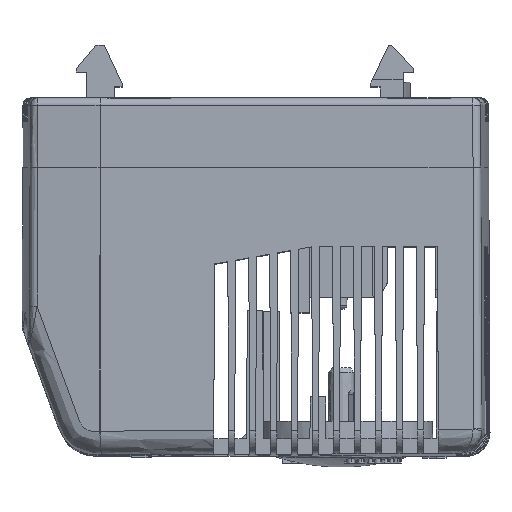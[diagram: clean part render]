
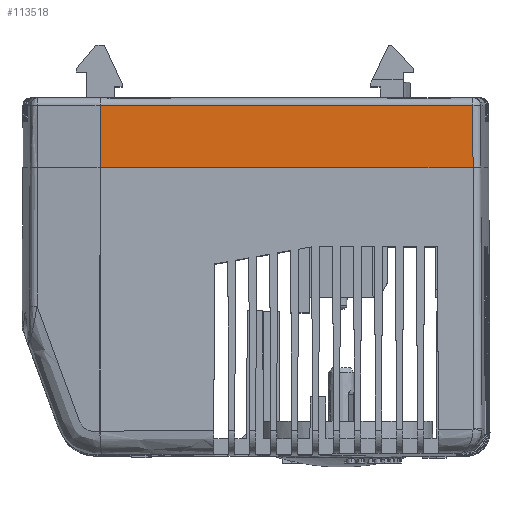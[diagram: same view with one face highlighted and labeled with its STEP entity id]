
A CAD part, top view. The second image highlights one B-rep face of the part: STEP entity #113518.
In plain terms, the highlighted planar face has unit normal (0, 0.004, 1).
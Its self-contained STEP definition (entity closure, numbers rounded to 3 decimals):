
#1266 = ORIENTED_EDGE ( 'NONE', *, *, #105388, .T. ) ;
#3716 = ORIENTED_EDGE ( 'NONE', *, *, #141724, .T. ) ;
#7848 = EDGE_CURVE ( 'NONE', #19795, #11847, #26272, .T. ) ;
#11847 = VERTEX_POINT ( 'NONE', #18582 ) ;
#12545 = CARTESIAN_POINT ( 'NONE',  ( 120., 8.004, 18.465 ) ) ;
#18582 = CARTESIAN_POINT ( 'NONE',  ( -19.956, 0., 18.5 ) ) ;
#19795 = VERTEX_POINT ( 'NONE', #51848 ) ;
#22536 = VECTOR ( 'NONE', #109715, 1000. ) ;
#26272 = LINE ( 'NONE', #110239, #22536 ) ;
#31458 = FACE_OUTER_BOUND ( 'NONE', #124432, .T. ) ;
#33328 = VECTOR ( 'NONE', #122620, 1000. ) ;
#33628 = PLANE ( 'NONE',  #106212 ) ;
#46023 = DIRECTION ( 'NONE',  ( 0., 0.004, 1. ) ) ;
#51848 = CARTESIAN_POINT ( 'NONE',  ( -19.955, 8.004, 18.465 ) ) ;
#52144 = CARTESIAN_POINT ( 'NONE',  ( 27.938, 8.004, 18.465 ) ) ;
#57602 = LINE ( 'NONE', #12545, #120688 ) ;
#64018 = ORIENTED_EDGE ( 'NONE', *, *, #7848, .T. ) ;
#64836 = LINE ( 'NONE', #86901, #33328 ) ;
#65083 = VECTOR ( 'NONE', #126493, 1000. ) ;
#83995 = ORIENTED_EDGE ( 'NONE', *, *, #133575, .F. ) ;
#86901 = CARTESIAN_POINT ( 'NONE',  ( -20., 0., 18.5 ) ) ;
#88685 = VERTEX_POINT ( 'NONE', #140833 ) ;
#95451 = DIRECTION ( 'NONE',  ( 1., 0., 0. ) ) ;
#96661 = LINE ( 'NONE', #101758, #65083 ) ;
#101758 = CARTESIAN_POINT ( 'NONE',  ( 27.969, 0., 18.5 ) ) ;
#105388 = EDGE_CURVE ( 'NONE', #11847, #88685, #64836, .T. ) ;
#106212 = AXIS2_PLACEMENT_3D ( 'NONE', #117116, #46023, #128976 ) ;
#109715 = DIRECTION ( 'NONE',  ( 0., -1., 0.004 ) ) ;
#110239 = CARTESIAN_POINT ( 'NONE',  ( -19.955, 8.004, 18.465 ) ) ;
#113518 = ADVANCED_FACE ( 'NONE', ( #31458 ), #33628, .T. ) ;
#117116 = CARTESIAN_POINT ( 'NONE',  ( -20., 0., 18.5 ) ) ;
#120688 = VECTOR ( 'NONE', #95451, 1000. ) ;
#122620 = DIRECTION ( 'NONE',  ( 1., 0., 0. ) ) ;
#124432 = EDGE_LOOP ( 'NONE', ( #1266, #3716, #83995, #64018 ) ) ;
#124599 = VERTEX_POINT ( 'NONE', #52144 ) ;
#126493 = DIRECTION ( 'NONE',  ( -0.004, 1., -0.004 ) ) ;
#128976 = DIRECTION ( 'NONE',  ( 0., -1., 0.004 ) ) ;
#133575 = EDGE_CURVE ( 'NONE', #19795, #124599, #57602, .T. ) ;
#140833 = CARTESIAN_POINT ( 'NONE',  ( 27.969, 0., 18.5 ) ) ;
#141724 = EDGE_CURVE ( 'NONE', #88685, #124599, #96661, .T. ) ;
